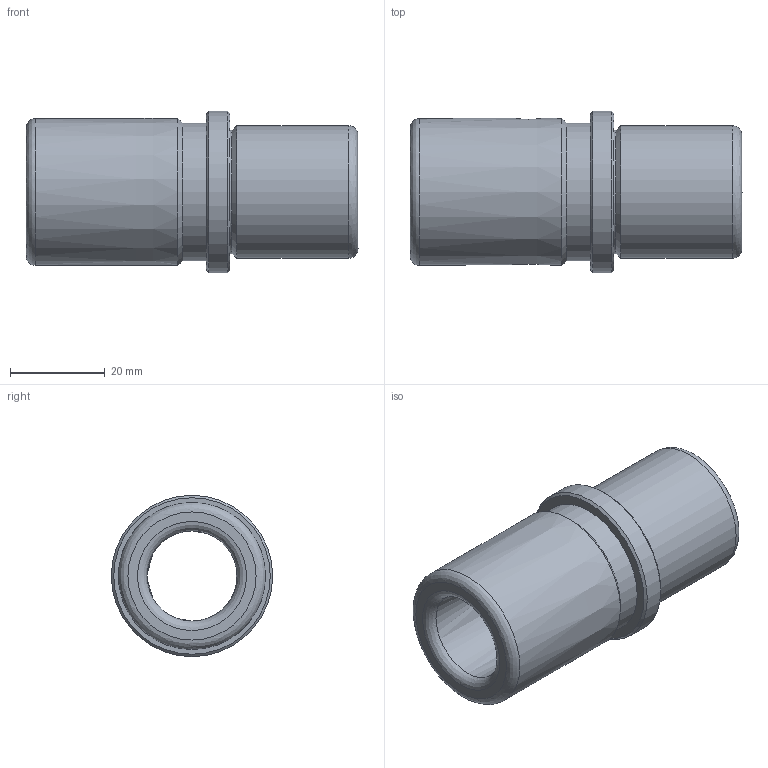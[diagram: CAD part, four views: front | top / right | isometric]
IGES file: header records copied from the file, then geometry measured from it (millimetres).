
Start section: Data from Parasolid IGES Translator 20.0.26, Copyright(c) 2006 Siemens P LM Software. All Rights Reserved.
Global section: file name: WZ - 4051 19 x 70.igs; native system: By Siemens PLM Incorporated; preprocessor: XPlus GENERIC/IGES 20.0.26; author: Noname; organization: Noname; date: 20201203.205036; units: inch
Bounding box: 70 x 34 x 34 mm (x, y, z)
Surface area: 12101.1 mm2 (no closed solid volume)
Topology: 0 solids, 0 shells, 21 faces, 82 edges, 60 vertices
Faces by surface type: revolution 16, extrusion 5
